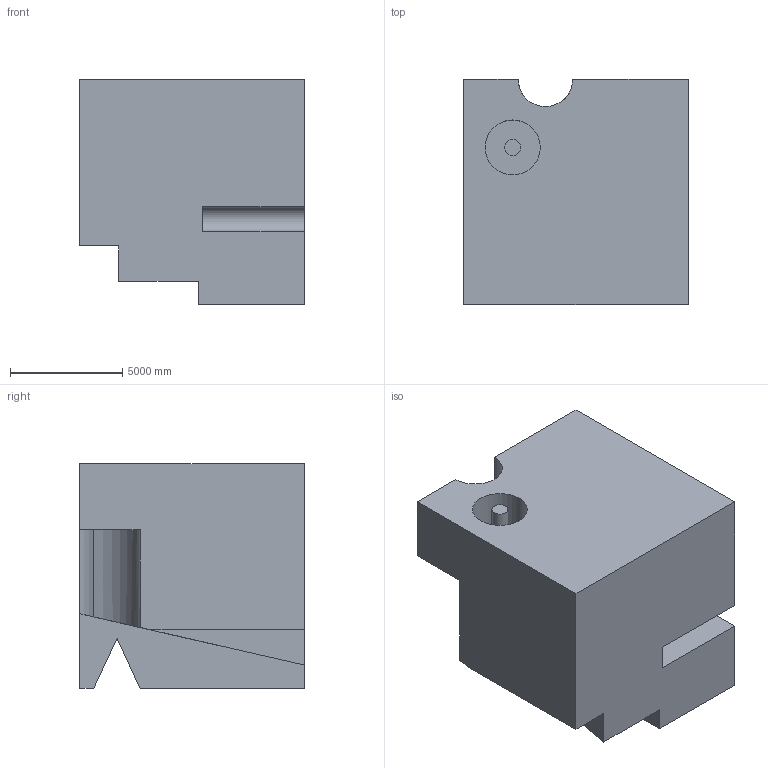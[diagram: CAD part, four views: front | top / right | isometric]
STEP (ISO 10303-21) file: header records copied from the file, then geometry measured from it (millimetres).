
FILE_DESCRIPTION (( 'STEP AP203' ), '1' );
FILE_NAME ('1630.STEP', '2022-08-19T11:11:06', ( 'user' ), ( '' ), 'SwSTEP 2.0', 'SolidWorks 2021', '' );
FILE_SCHEMA (( 'CONFIG_CONTROL_DESIGN' ));
Length unit declared in the file: centimetre
Products named in the file (1): 1630
Bounding box: 10000 x 10000 x 10000 mm (x, y, z)
Volume: 808418778303.6 mm3; surface area: 617621417.8 mm2
Topology: 1 solids, 1 shells, 27 faces, 69 edges, 46 vertices
Faces by surface type: plane 20, cylinder 7
Entity records: 893 total; most frequent: CARTESIAN_POINT 149, ORIENTED_EDGE 138, DIRECTION 136, EDGE_CURVE 69, LINE 54, VECTOR 54, VERTEX_POINT 46, AXIS2_PLACEMENT_3D 41
